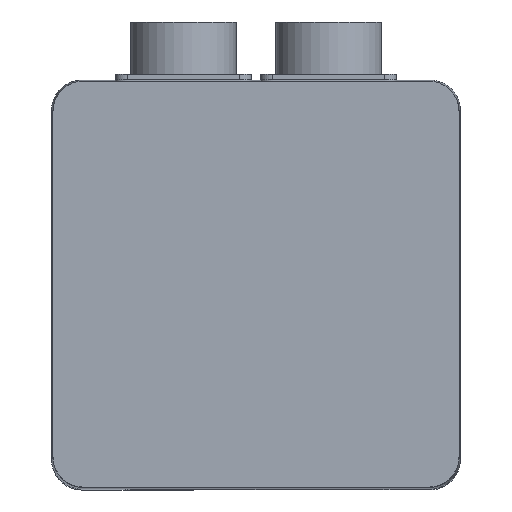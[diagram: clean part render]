
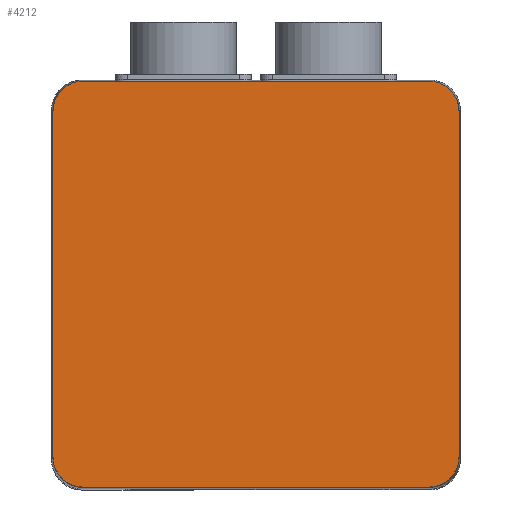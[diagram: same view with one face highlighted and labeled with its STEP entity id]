
A CAD part, top view. The second image highlights one B-rep face of the part: STEP entity #4212.
In plain terms, the highlighted planar face has unit normal (0, 0, 1).
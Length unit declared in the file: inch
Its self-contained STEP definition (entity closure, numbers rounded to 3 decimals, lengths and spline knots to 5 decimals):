
#3676=CARTESIAN_POINT('',(1.675,1.425,7.195));
#3677=VERTEX_POINT('',#3676);
#3684=CARTESIAN_POINT('',(1.675,-1.425,7.195));
#3685=VERTEX_POINT('',#3684);
#3686=CARTESIAN_POINT('',(1.675,1.425,7.195));
#3687=DIRECTION('',(0.0,-1.0,0.0));
#3688=VECTOR('',#3687,2.85);
#3689=LINE('',#3686,#3688);
#3690=EDGE_CURVE('',#3677,#3685,#3689,.T.);
#3755=CARTESIAN_POINT('',(1.425,1.675,7.195));
#3756=VERTEX_POINT('',#3755);
#3763=CARTESIAN_POINT('',(1.425,1.425,7.195));
#3764=DIRECTION('',(0.0,0.0,-1.));
#3765=DIRECTION('',(0.707,0.707,0.0));
#3766=AXIS2_PLACEMENT_3D('',#3763,#3764,#3765);
#3767=CIRCLE('',#3766,0.25);
#3768=EDGE_CURVE('',#3756,#3677,#3767,.T.);
#3818=CARTESIAN_POINT('',(-1.425,1.675,7.195));
#3819=VERTEX_POINT('',#3818);
#3826=CARTESIAN_POINT('',(-1.425,1.675,7.195));
#3827=DIRECTION('',(1.0,0.0,0.0));
#3828=VECTOR('',#3827,2.85);
#3829=LINE('',#3826,#3828);
#3830=EDGE_CURVE('',#3819,#3756,#3829,.T.);
#3883=CARTESIAN_POINT('',(-1.675,1.425,7.195));
#3884=VERTEX_POINT('',#3883);
#3891=CARTESIAN_POINT('',(-1.425,1.425,7.195));
#3892=DIRECTION('',(0.0,0.0,-1.));
#3893=DIRECTION('',(-0.707,0.707,0.0));
#3894=AXIS2_PLACEMENT_3D('',#3891,#3892,#3893);
#3895=CIRCLE('',#3894,0.25);
#3896=EDGE_CURVE('',#3884,#3819,#3895,.T.);
#3969=CARTESIAN_POINT('',(1.425,-1.675,7.195));
#3970=VERTEX_POINT('',#3969);
#3977=CARTESIAN_POINT('',(-1.425,-1.675,7.195));
#3978=VERTEX_POINT('',#3977);
#3979=CARTESIAN_POINT('',(1.425,-1.675,7.195));
#3980=DIRECTION('',(-1.0,0.0,0.0));
#3981=VECTOR('',#3980,2.85);
#3982=LINE('',#3979,#3981);
#3983=EDGE_CURVE('',#3970,#3978,#3982,.T.);
#4001=CARTESIAN_POINT('',(1.425,-1.425,7.195));
#4002=DIRECTION('',(0.0,0.0,-1.));
#4003=DIRECTION('',(0.707,-0.707,0.0));
#4004=AXIS2_PLACEMENT_3D('',#4001,#4002,#4003);
#4005=CIRCLE('',#4004,0.25);
#4006=EDGE_CURVE('',#3685,#3970,#4005,.T.);
#4173=CARTESIAN_POINT('',(-1.675,-1.425,7.195));
#4174=VERTEX_POINT('',#4173);
#4181=CARTESIAN_POINT('',(-1.675,-1.425,7.195));
#4182=DIRECTION('',(0.0,1.0,0.0));
#4183=VECTOR('',#4182,2.85);
#4184=LINE('',#4181,#4183);
#4185=EDGE_CURVE('',#4174,#3884,#4184,.T.);
#4191=CARTESIAN_POINT('',(0.,0.,7.195));
#4192=DIRECTION('',(0.0,0.0,1.0));
#4193=DIRECTION('',(1.0,0.0,0.0));
#4194=AXIS2_PLACEMENT_3D('',#4191,#4192,#4193);
#4195=PLANE('',#4194);
#4196=CARTESIAN_POINT('',(-1.425,-1.425,7.195));
#4197=DIRECTION('',(0.0,0.0,-1.));
#4198=DIRECTION('',(-0.707,-0.707,0.0));
#4199=AXIS2_PLACEMENT_3D('',#4196,#4197,#4198);
#4200=CIRCLE('',#4199,0.25);
#4201=EDGE_CURVE('',#3978,#4174,#4200,.T.);
#4202=ORIENTED_EDGE('',*,*,#4201,.F.);
#4203=ORIENTED_EDGE('',*,*,#3983,.F.);
#4204=ORIENTED_EDGE('',*,*,#4006,.F.);
#4205=ORIENTED_EDGE('',*,*,#3690,.F.);
#4206=ORIENTED_EDGE('',*,*,#3768,.F.);
#4207=ORIENTED_EDGE('',*,*,#3830,.F.);
#4208=ORIENTED_EDGE('',*,*,#3896,.F.);
#4209=ORIENTED_EDGE('',*,*,#4185,.F.);
#4210=EDGE_LOOP('',(#4202,#4203,#4204,#4205,#4206,#4207,#4208,#4209));
#4211=FACE_OUTER_BOUND('',#4210,.T.);
#4212=ADVANCED_FACE('',(#4211),#4195,.T.);
